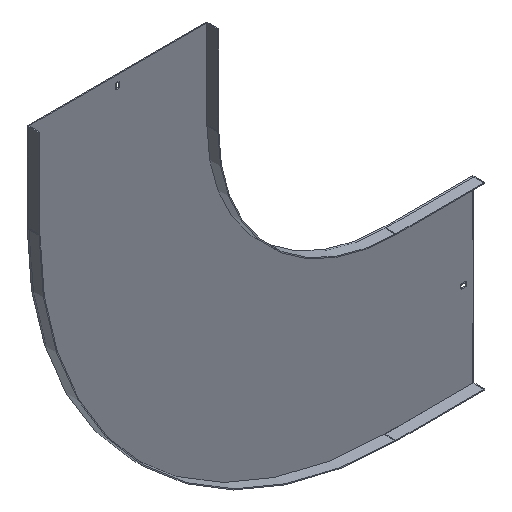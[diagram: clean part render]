
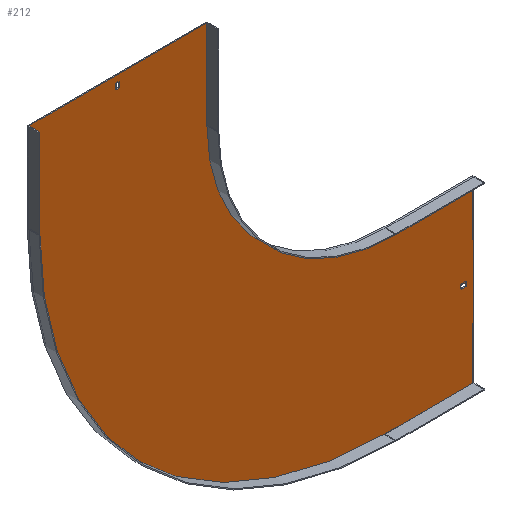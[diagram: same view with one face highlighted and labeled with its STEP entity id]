
A CAD part, isometric view. The second image highlights one B-rep face of the part: STEP entity #212.
In plain terms, the highlighted planar face has unit normal (0, -1, 0).
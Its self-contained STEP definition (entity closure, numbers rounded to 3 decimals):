
#9 = VECTOR ( 'NONE', #653, 1000. ) ;
#26 = VECTOR ( 'NONE', #343, 1000. ) ;
#27 = CARTESIAN_POINT ( 'NONE',  ( -600., -1.5, 0. ) ) ;
#28 = VERTEX_POINT ( 'NONE', #404 ) ;
#31 = CARTESIAN_POINT ( 'NONE',  ( -300., -1.5, 0. ) ) ;
#37 = CARTESIAN_POINT ( 'NONE',  ( -300., -1.5, 150. ) ) ;
#39 = LINE ( 'NONE', #180, #137 ) ;
#44 = DIRECTION ( 'NONE',  ( 0., 0., -1. ) ) ;
#68 = VERTEX_POINT ( 'NONE', #662 ) ;
#72 = CARTESIAN_POINT ( 'NONE',  ( -600., -1.5, 150. ) ) ;
#74 = AXIS2_PLACEMENT_3D ( 'NONE', #830, #624, #768 ) ;
#75 = VECTOR ( 'NONE', #858, 1000. ) ;
#78 = DIRECTION ( 'NONE',  ( -1., 0., 0. ) ) ;
#79 = VERTEX_POINT ( 'NONE', #72 ) ;
#82 = CARTESIAN_POINT ( 'NONE',  ( 150., -1.5, -600. ) ) ;
#94 = ORIENTED_EDGE ( 'NONE', *, *, #390, .T. ) ;
#97 = CARTESIAN_POINT ( 'NONE',  ( -446.75, -1.5, 129. ) ) ;
#101 = ORIENTED_EDGE ( 'NONE', *, *, #637, .F. ) ;
#108 = DIRECTION ( 'NONE',  ( -1., 0., 0. ) ) ;
#111 = CARTESIAN_POINT ( 'NONE',  ( -446.75, -1.5, 0. ) ) ;
#113 = VERTEX_POINT ( 'NONE', #31 ) ;
#118 = VECTOR ( 'NONE', #78, 1000. ) ;
#128 = CIRCLE ( 'NONE', #651, 600. ) ;
#137 = VECTOR ( 'NONE', #567, 1000. ) ;
#139 = CARTESIAN_POINT ( 'NONE',  ( -300., -1.5, 150. ) ) ;
#141 = DIRECTION ( 'NONE',  ( -1., 0., 0. ) ) ;
#145 = CARTESIAN_POINT ( 'NONE',  ( 138., -1.5, -446.75 ) ) ;
#150 = EDGE_CURVE ( 'NONE', #686, #757, #626, .T. ) ;
#159 = EDGE_CURVE ( 'NONE', #614, #28, #39, .T. ) ;
#163 = ORIENTED_EDGE ( 'NONE', *, *, #574, .F. ) ;
#168 = VECTOR ( 'NONE', #459, 1000. ) ;
#170 = VECTOR ( 'NONE', #838, 1000. ) ;
#171 = VERTEX_POINT ( 'NONE', #575 ) ;
#175 = LINE ( 'NONE', #27, #26 ) ;
#178 = EDGE_CURVE ( 'NONE', #757, #68, #128, .T. ) ;
#180 = CARTESIAN_POINT ( 'NONE',  ( -453.25, -1.5, 0. ) ) ;
#190 = VECTOR ( 'NONE', #811, 1000. ) ;
#199 = ORIENTED_EDGE ( 'NONE', *, *, #655, .F. ) ;
#204 = VERTEX_POINT ( 'NONE', #145 ) ;
#212 = ADVANCED_FACE ( 'NONE', ( #235, #622, #837 ), #552, .T. ) ;
#226 = ORIENTED_EDGE ( 'NONE', *, *, #803, .F. ) ;
#229 = CARTESIAN_POINT ( 'NONE',  ( 150., -1.5, -300. ) ) ;
#235 = FACE_BOUND ( 'NONE', #565, .T. ) ;
#237 = CARTESIAN_POINT ( 'NONE',  ( 0., -1.5, 129. ) ) ;
#239 = VERTEX_POINT ( 'NONE', #712 ) ;
#257 = VERTEX_POINT ( 'NONE', #519 ) ;
#259 = LINE ( 'NONE', #785, #170 ) ;
#268 = CARTESIAN_POINT ( 'NONE',  ( -453.25, -1.5, 129. ) ) ;
#274 = ORIENTED_EDGE ( 'NONE', *, *, #150, .F. ) ;
#284 = DIRECTION ( 'NONE',  ( 1., 0., 0. ) ) ;
#286 = ORIENTED_EDGE ( 'NONE', *, *, #568, .F. ) ;
#299 = DIRECTION ( 'NONE',  ( 0., 0., -1. ) ) ;
#304 = ORIENTED_EDGE ( 'NONE', *, *, #178, .F. ) ;
#312 = EDGE_CURVE ( 'NONE', #113, #833, #602, .T. ) ;
#320 = VECTOR ( 'NONE', #786, 1000. ) ;
#325 = CARTESIAN_POINT ( 'NONE',  ( 150., -1.5, -298.5 ) ) ;
#327 = LINE ( 'NONE', #325, #168 ) ;
#330 = VECTOR ( 'NONE', #733, 1000. ) ;
#343 = DIRECTION ( 'NONE',  ( 0., 0., 1. ) ) ;
#348 = DIRECTION ( 'NONE',  ( 0., -1., 0. ) ) ;
#372 = DIRECTION ( 'NONE',  ( 0., 1., 0. ) ) ;
#384 = CARTESIAN_POINT ( 'NONE',  ( 138., -1.5, 0. ) ) ;
#390 = EDGE_CURVE ( 'NONE', #28, #239, #812, .T. ) ;
#391 = CARTESIAN_POINT ( 'NONE',  ( 0., -1.5, -446.75 ) ) ;
#392 = VECTOR ( 'NONE', #284, 1000. ) ;
#404 = CARTESIAN_POINT ( 'NONE',  ( -453.25, -1.5, 138. ) ) ;
#413 = CARTESIAN_POINT ( 'NONE',  ( 129., -1.5, -453.25 ) ) ;
#414 = ORIENTED_EDGE ( 'NONE', *, *, #658, .F. ) ;
#416 = VERTEX_POINT ( 'NONE', #413 ) ;
#418 = EDGE_CURVE ( 'NONE', #683, #614, #557, .T. ) ;
#421 = VERTEX_POINT ( 'NONE', #37 ) ;
#430 = EDGE_CURVE ( 'NONE', #68, #79, #175, .T. ) ;
#435 = ORIENTED_EDGE ( 'NONE', *, *, #159, .T. ) ;
#440 = LINE ( 'NONE', #111, #320 ) ;
#447 = LINE ( 'NONE', #725, #535 ) ;
#459 = DIRECTION ( 'NONE',  ( 0., 0., -1. ) ) ;
#465 = EDGE_CURVE ( 'NONE', #416, #171, #715, .T. ) ;
#477 = EDGE_CURVE ( 'NONE', #239, #683, #440, .T. ) ;
#498 = VECTOR ( 'NONE', #108, 1000. ) ;
#502 = CARTESIAN_POINT ( 'NONE',  ( 0., -1.5, 0. ) ) ;
#509 = ORIENTED_EDGE ( 'NONE', *, *, #676, .F. ) ;
#519 = CARTESIAN_POINT ( 'NONE',  ( 129., -1.5, -446.75 ) ) ;
#522 = LINE ( 'NONE', #139, #9 ) ;
#535 = VECTOR ( 'NONE', #808, 1000. ) ;
#551 = CARTESIAN_POINT ( 'NONE',  ( 0., -1.5, -600. ) ) ;
#552 = PLANE ( 'NONE',  #74 ) ;
#557 = LINE ( 'NONE', #237, #118 ) ;
#565 = EDGE_LOOP ( 'NONE', ( #199, #163, #834, #286 ) ) ;
#567 = DIRECTION ( 'NONE',  ( 0., 0., 1. ) ) ;
#568 = EDGE_CURVE ( 'NONE', #257, #416, #447, .T. ) ;
#570 = VECTOR ( 'NONE', #141, 1000. ) ;
#574 = EDGE_CURVE ( 'NONE', #171, #204, #647, .T. ) ;
#575 = CARTESIAN_POINT ( 'NONE',  ( 138., -1.5, -453.25 ) ) ;
#602 = CIRCLE ( 'NONE', #718, 300. ) ;
#609 = CARTESIAN_POINT ( 'NONE',  ( 0., -1.5, -300. ) ) ;
#614 = VERTEX_POINT ( 'NONE', #268 ) ;
#622 = FACE_OUTER_BOUND ( 'NONE', #741, .T. ) ;
#624 = DIRECTION ( 'NONE',  ( 0., -1., 0. ) ) ;
#626 = LINE ( 'NONE', #695, #498 ) ;
#636 = CARTESIAN_POINT ( 'NONE',  ( 0., -1.5, -453.25 ) ) ;
#637 = EDGE_CURVE ( 'NONE', #710, #686, #327, .T. ) ;
#647 = LINE ( 'NONE', #384, #330 ) ;
#651 = AXIS2_PLACEMENT_3D ( 'NONE', #698, #372, #44 ) ;
#653 = DIRECTION ( 'NONE',  ( 0., 0., -1. ) ) ;
#654 = ORIENTED_EDGE ( 'NONE', *, *, #430, .F. ) ;
#655 = EDGE_CURVE ( 'NONE', #204, #257, #862, .T. ) ;
#658 = EDGE_CURVE ( 'NONE', #421, #113, #522, .T. ) ;
#662 = CARTESIAN_POINT ( 'NONE',  ( -600., -1.5, 0. ) ) ;
#672 = CARTESIAN_POINT ( 'NONE',  ( 0., -1.5, 138. ) ) ;
#676 = EDGE_CURVE ( 'NONE', #833, #710, #677, .T. ) ;
#677 = LINE ( 'NONE', #609, #190 ) ;
#682 = ORIENTED_EDGE ( 'NONE', *, *, #477, .T. ) ;
#683 = VERTEX_POINT ( 'NONE', #97 ) ;
#686 = VERTEX_POINT ( 'NONE', #82 ) ;
#695 = CARTESIAN_POINT ( 'NONE',  ( 150., -1.5, -600. ) ) ;
#698 = CARTESIAN_POINT ( 'NONE',  ( 0., -1.5, 0. ) ) ;
#705 = CARTESIAN_POINT ( 'NONE',  ( 0., -1.5, -300. ) ) ;
#710 = VERTEX_POINT ( 'NONE', #229 ) ;
#712 = CARTESIAN_POINT ( 'NONE',  ( -446.75, -1.5, 138. ) ) ;
#715 = LINE ( 'NONE', #636, #75 ) ;
#718 = AXIS2_PLACEMENT_3D ( 'NONE', #502, #348, #299 ) ;
#725 = CARTESIAN_POINT ( 'NONE',  ( 129., -1.5, 0. ) ) ;
#733 = DIRECTION ( 'NONE',  ( 0., 0., 1. ) ) ;
#741 = EDGE_LOOP ( 'NONE', ( #226, #654, #304, #274, #101, #509, #840, #414 ) ) ;
#749 = EDGE_LOOP ( 'NONE', ( #94, #682, #814, #435 ) ) ;
#757 = VERTEX_POINT ( 'NONE', #551 ) ;
#768 = DIRECTION ( 'NONE',  ( 0., 0., -1. ) ) ;
#785 = CARTESIAN_POINT ( 'NONE',  ( -601.5, -1.5, 150. ) ) ;
#786 = DIRECTION ( 'NONE',  ( 0., 0., -1. ) ) ;
#803 = EDGE_CURVE ( 'NONE', #79, #421, #259, .T. ) ;
#808 = DIRECTION ( 'NONE',  ( 0., 0., -1. ) ) ;
#811 = DIRECTION ( 'NONE',  ( 1., 0., 0. ) ) ;
#812 = LINE ( 'NONE', #672, #392 ) ;
#814 = ORIENTED_EDGE ( 'NONE', *, *, #418, .T. ) ;
#830 = CARTESIAN_POINT ( 'NONE',  ( 0., -1.5, 0. ) ) ;
#833 = VERTEX_POINT ( 'NONE', #705 ) ;
#834 = ORIENTED_EDGE ( 'NONE', *, *, #465, .F. ) ;
#837 = FACE_BOUND ( 'NONE', #749, .T. ) ;
#838 = DIRECTION ( 'NONE',  ( 1., 0., 0. ) ) ;
#840 = ORIENTED_EDGE ( 'NONE', *, *, #312, .F. ) ;
#858 = DIRECTION ( 'NONE',  ( 1., 0., 0. ) ) ;
#862 = LINE ( 'NONE', #391, #570 ) ;
